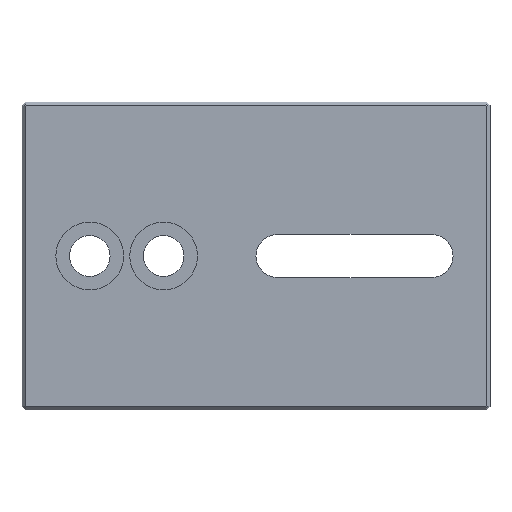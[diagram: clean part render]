
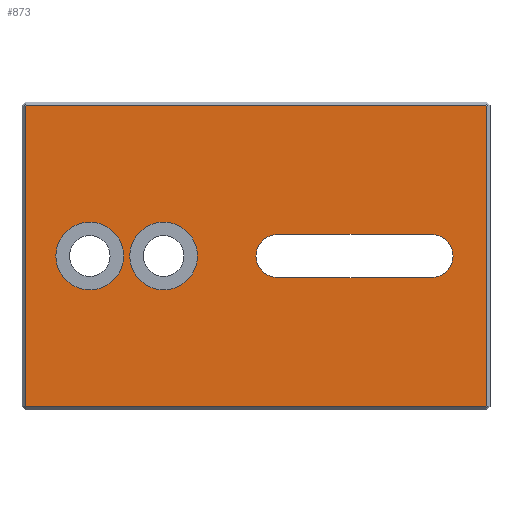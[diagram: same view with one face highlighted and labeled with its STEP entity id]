
A CAD part, front view. The second image highlights one B-rep face of the part: STEP entity #873.
In plain terms, the highlighted planar face has unit normal (0, -1, 0).
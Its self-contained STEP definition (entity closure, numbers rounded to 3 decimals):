
#4 = VERTEX_POINT ( 'NONE', #18 ) ;
#8 = EDGE_CURVE ( 'NONE', #796, #962, #21, .T. ) ;
#18 = CARTESIAN_POINT ( 'NONE',  ( -37.293, -5.5, 24.5 ) ) ;
#21 = CIRCLE ( 'NONE', #34, 5.5 ) ;
#31 = VERTEX_POINT ( 'NONE', #248 ) ;
#34 = AXIS2_PLACEMENT_3D ( 'NONE', #1056, #708, #943 ) ;
#44 = LINE ( 'NONE', #1364, #209 ) ;
#50 = LINE ( 'NONE', #928, #1356 ) ;
#54 = CARTESIAN_POINT ( 'NONE',  ( -37.293, -5.5, -24.5 ) ) ;
#55 = ORIENTED_EDGE ( 'NONE', *, *, #1062, .F. ) ;
#71 = DIRECTION ( 'NONE',  ( 0., 0., -1. ) ) ;
#101 = VECTOR ( 'NONE', #1357, 1000. ) ;
#115 = VERTEX_POINT ( 'NONE', #269 ) ;
#121 = LINE ( 'NONE', #1164, #718 ) ;
#131 = DIRECTION ( 'NONE',  ( 0., 0., -1. ) ) ;
#143 = ORIENTED_EDGE ( 'NONE', *, *, #704, .T. ) ;
#147 = LINE ( 'NONE', #1483, #793 ) ;
#154 = CIRCLE ( 'NONE', #1260, 5.5 ) ;
#171 = VECTOR ( 'NONE', #1006, 1000. ) ;
#184 = CARTESIAN_POINT ( 'NONE',  ( 37.5, -5.5, -24.293 ) ) ;
#199 = ORIENTED_EDGE ( 'NONE', *, *, #8, .F. ) ;
#209 = VECTOR ( 'NONE', #1477, 1000. ) ;
#248 = CARTESIAN_POINT ( 'NONE',  ( 28.5, -5.5, -3.5 ) ) ;
#250 = CARTESIAN_POINT ( 'NONE',  ( -27., -5.5, 0. ) ) ;
#255 = ORIENTED_EDGE ( 'NONE', *, *, #437, .T. ) ;
#259 = EDGE_CURVE ( 'NONE', #996, #655, #841, .T. ) ;
#269 = CARTESIAN_POINT ( 'NONE',  ( -37.5, -5.5, 24.293 ) ) ;
#277 = VERTEX_POINT ( 'NONE', #517 ) ;
#303 = ORIENTED_EDGE ( 'NONE', *, *, #608, .T. ) ;
#328 = VERTEX_POINT ( 'NONE', #526 ) ;
#329 = EDGE_CURVE ( 'NONE', #1412, #878, #1054, .T. ) ;
#338 = CIRCLE ( 'NONE', #1230, 5.5 ) ;
#339 = EDGE_CURVE ( 'NONE', #655, #31, #935, .T. ) ;
#346 = ORIENTED_EDGE ( 'NONE', *, *, #1298, .T. ) ;
#380 = EDGE_CURVE ( 'NONE', #962, #796, #824, .T. ) ;
#393 = FACE_BOUND ( 'NONE', #1067, .T. ) ;
#410 = DIRECTION ( 'NONE',  ( 0., 0., 1. ) ) ;
#415 = CARTESIAN_POINT ( 'NONE',  ( 0., -5.5, 0. ) ) ;
#417 = EDGE_CURVE ( 'NONE', #115, #277, #1292, .T. ) ;
#418 = CARTESIAN_POINT ( 'NONE',  ( 37.5, -5.5, 0. ) ) ;
#437 = EDGE_CURVE ( 'NONE', #843, #1412, #1331, .T. ) ;
#443 = CARTESIAN_POINT ( 'NONE',  ( 37.646, -5.5, -24.146 ) ) ;
#471 = AXIS2_PLACEMENT_3D ( 'NONE', #415, #633, #1453 ) ;
#478 = DIRECTION ( 'NONE',  ( -1., 0., 0. ) ) ;
#487 = CARTESIAN_POINT ( 'NONE',  ( 3.5, -5.5, 0. ) ) ;
#492 = ORIENTED_EDGE ( 'NONE', *, *, #1008, .T. ) ;
#517 = CARTESIAN_POINT ( 'NONE',  ( -37.5, -5.5, -24.293 ) ) ;
#523 = CARTESIAN_POINT ( 'NONE',  ( 37.293, -5.5, -24.5 ) ) ;
#526 = CARTESIAN_POINT ( 'NONE',  ( 37.293, -5.5, 24.5 ) ) ;
#529 = CARTESIAN_POINT ( 'NONE',  ( 37.5, -5.5, 24.293 ) ) ;
#582 = DIRECTION ( 'NONE',  ( 0.707, 0., -0.707 ) ) ;
#585 = DIRECTION ( 'NONE',  ( 0., -1., 0. ) ) ;
#588 = EDGE_CURVE ( 'NONE', #31, #1051, #44, .T. ) ;
#608 = EDGE_CURVE ( 'NONE', #753, #843, #147, .T. ) ;
#623 = FACE_BOUND ( 'NONE', #1126, .T. ) ;
#629 = DIRECTION ( 'NONE',  ( 1., 0., 0. ) ) ;
#633 = DIRECTION ( 'NONE',  ( 0., 1., 0. ) ) ;
#640 = CARTESIAN_POINT ( 'NONE',  ( 28.5, -5.5, 0. ) ) ;
#641 = ORIENTED_EDGE ( 'NONE', *, *, #1045, .T. ) ;
#650 = CARTESIAN_POINT ( 'NONE',  ( -27., -5.5, 0. ) ) ;
#655 = VERTEX_POINT ( 'NONE', #729 ) ;
#696 = VERTEX_POINT ( 'NONE', #1079 ) ;
#702 = ORIENTED_EDGE ( 'NONE', *, *, #588, .T. ) ;
#704 = EDGE_CURVE ( 'NONE', #1051, #996, #1175, .T. ) ;
#706 = ORIENTED_EDGE ( 'NONE', *, *, #339, .T. ) ;
#707 = ORIENTED_EDGE ( 'NONE', *, *, #1168, .F. ) ;
#708 = DIRECTION ( 'NONE',  ( 0., -1., 0. ) ) ;
#718 = VECTOR ( 'NONE', #582, 1000. ) ;
#729 = CARTESIAN_POINT ( 'NONE',  ( 28.5, -5.5, 3.5 ) ) ;
#730 = ORIENTED_EDGE ( 'NONE', *, *, #417, .T. ) ;
#753 = VERTEX_POINT ( 'NONE', #54 ) ;
#756 = DIRECTION ( 'NONE',  ( 0., 1., 0. ) ) ;
#762 = CARTESIAN_POINT ( 'NONE',  ( -15., -5.5, -5.5 ) ) ;
#768 = DIRECTION ( 'NONE',  ( 0., 1., 0. ) ) ;
#772 = DIRECTION ( 'NONE',  ( 0., -1., 0. ) ) ;
#793 = VECTOR ( 'NONE', #1252, 1000. ) ;
#796 = VERTEX_POINT ( 'NONE', #762 ) ;
#824 = CIRCLE ( 'NONE', #1471, 5.5 ) ;
#841 = LINE ( 'NONE', #1229, #970 ) ;
#843 = VERTEX_POINT ( 'NONE', #523 ) ;
#871 = LINE ( 'NONE', #1384, #1404 ) ;
#873 = ADVANCED_FACE ( 'NONE', ( #393, #623, #1228, #938 ), #1115, .F. ) ;
#878 = VERTEX_POINT ( 'NONE', #529 ) ;
#913 = EDGE_LOOP ( 'NONE', ( #303, #255, #1123, #492, #346, #1287, #730, #641 ) ) ;
#928 = CARTESIAN_POINT ( 'NONE',  ( 37.146, -5.5, 24.646 ) ) ;
#935 = CIRCLE ( 'NONE', #1318, 3.5 ) ;
#938 = FACE_BOUND ( 'NONE', #942, .T. ) ;
#941 = DIRECTION ( 'NONE',  ( -0.707, 0., 0.707 ) ) ;
#942 = EDGE_LOOP ( 'NONE', ( #702, #143, #1143, #706 ) ) ;
#943 = DIRECTION ( 'NONE',  ( 0., 0., -1. ) ) ;
#957 = EDGE_CURVE ( 'NONE', #4, #115, #871, .T. ) ;
#959 = DIRECTION ( 'NONE',  ( 0., 0., 1. ) ) ;
#962 = VERTEX_POINT ( 'NONE', #1142 ) ;
#966 = AXIS2_PLACEMENT_3D ( 'NONE', #487, #756, #959 ) ;
#970 = VECTOR ( 'NONE', #629, 1000. ) ;
#996 = VERTEX_POINT ( 'NONE', #1502 ) ;
#1006 = DIRECTION ( 'NONE',  ( 0., 0., -1. ) ) ;
#1008 = EDGE_CURVE ( 'NONE', #878, #328, #50, .T. ) ;
#1016 = CARTESIAN_POINT ( 'NONE',  ( -27., -5.5, -5.5 ) ) ;
#1045 = EDGE_CURVE ( 'NONE', #277, #753, #121, .T. ) ;
#1051 = VERTEX_POINT ( 'NONE', #1289 ) ;
#1054 = LINE ( 'NONE', #418, #1078 ) ;
#1056 = CARTESIAN_POINT ( 'NONE',  ( -15., -5.5, 0. ) ) ;
#1062 = EDGE_CURVE ( 'NONE', #696, #1196, #338, .T. ) ;
#1067 = EDGE_LOOP ( 'NONE', ( #707, #55 ) ) ;
#1078 = VECTOR ( 'NONE', #410, 1000. ) ;
#1079 = CARTESIAN_POINT ( 'NONE',  ( -27., -5.5, 5.5 ) ) ;
#1080 = CARTESIAN_POINT ( 'NONE',  ( 0., -5.5, 24.5 ) ) ;
#1113 = CARTESIAN_POINT ( 'NONE',  ( -15., -5.5, 0. ) ) ;
#1115 = PLANE ( 'NONE',  #471 ) ;
#1123 = ORIENTED_EDGE ( 'NONE', *, *, #329, .T. ) ;
#1126 = EDGE_LOOP ( 'NONE', ( #199, #1396 ) ) ;
#1142 = CARTESIAN_POINT ( 'NONE',  ( -15., -5.5, 5.5 ) ) ;
#1143 = ORIENTED_EDGE ( 'NONE', *, *, #259, .T. ) ;
#1164 = CARTESIAN_POINT ( 'NONE',  ( -37.146, -5.5, -24.646 ) ) ;
#1168 = EDGE_CURVE ( 'NONE', #1196, #696, #154, .T. ) ;
#1175 = CIRCLE ( 'NONE', #966, 3.5 ) ;
#1196 = VERTEX_POINT ( 'NONE', #1016 ) ;
#1228 = FACE_OUTER_BOUND ( 'NONE', #913, .T. ) ;
#1229 = CARTESIAN_POINT ( 'NONE',  ( 3.5, -5.5, 3.5 ) ) ;
#1230 = AXIS2_PLACEMENT_3D ( 'NONE', #250, #585, #131 ) ;
#1252 = DIRECTION ( 'NONE',  ( 1., 0., 0. ) ) ;
#1260 = AXIS2_PLACEMENT_3D ( 'NONE', #650, #1479, #1350 ) ;
#1262 = DIRECTION ( 'NONE',  ( -0.707, 0., -0.707 ) ) ;
#1287 = ORIENTED_EDGE ( 'NONE', *, *, #957, .T. ) ;
#1289 = CARTESIAN_POINT ( 'NONE',  ( 3.5, -5.5, -3.5 ) ) ;
#1292 = LINE ( 'NONE', #1489, #171 ) ;
#1297 = VECTOR ( 'NONE', #478, 1000. ) ;
#1298 = EDGE_CURVE ( 'NONE', #328, #4, #1317, .T. ) ;
#1317 = LINE ( 'NONE', #1080, #1297 ) ;
#1318 = AXIS2_PLACEMENT_3D ( 'NONE', #640, #768, #1335 ) ;
#1331 = LINE ( 'NONE', #443, #101 ) ;
#1335 = DIRECTION ( 'NONE',  ( 0., 0., 1. ) ) ;
#1350 = DIRECTION ( 'NONE',  ( 0., 0., -1. ) ) ;
#1356 = VECTOR ( 'NONE', #941, 1000. ) ;
#1357 = DIRECTION ( 'NONE',  ( 0.707, 0., 0.707 ) ) ;
#1364 = CARTESIAN_POINT ( 'NONE',  ( 3.5, -5.5, -3.5 ) ) ;
#1384 = CARTESIAN_POINT ( 'NONE',  ( -37.646, -5.5, 24.146 ) ) ;
#1396 = ORIENTED_EDGE ( 'NONE', *, *, #380, .F. ) ;
#1404 = VECTOR ( 'NONE', #1262, 1000. ) ;
#1412 = VERTEX_POINT ( 'NONE', #184 ) ;
#1453 = DIRECTION ( 'NONE',  ( 0., 0., 1. ) ) ;
#1471 = AXIS2_PLACEMENT_3D ( 'NONE', #1113, #772, #71 ) ;
#1477 = DIRECTION ( 'NONE',  ( -1., 0., 0. ) ) ;
#1479 = DIRECTION ( 'NONE',  ( 0., -1., 0. ) ) ;
#1483 = CARTESIAN_POINT ( 'NONE',  ( 0., -5.5, -24.5 ) ) ;
#1489 = CARTESIAN_POINT ( 'NONE',  ( -37.5, -5.5, 0. ) ) ;
#1502 = CARTESIAN_POINT ( 'NONE',  ( 3.5, -5.5, 3.5 ) ) ;
